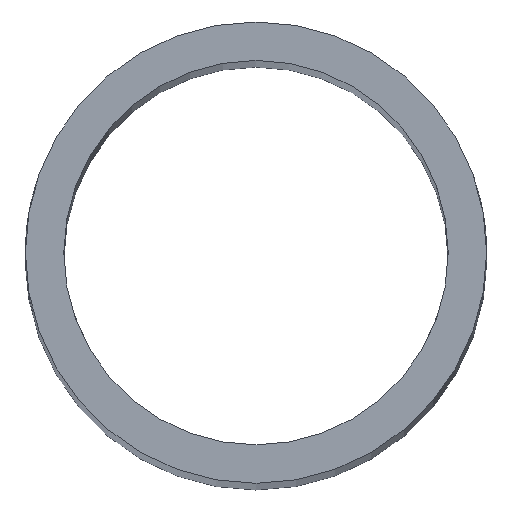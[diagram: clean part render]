
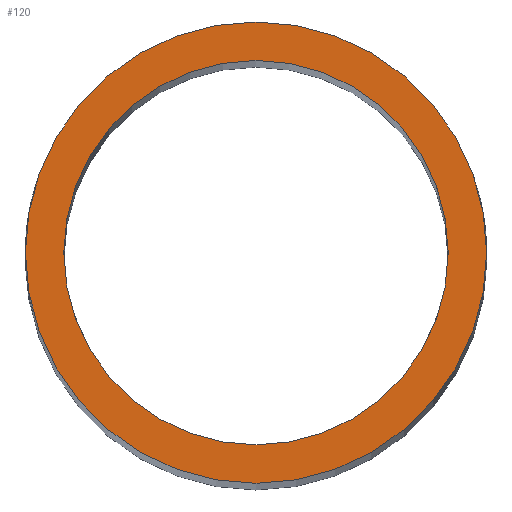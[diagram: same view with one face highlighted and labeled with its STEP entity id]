
A CAD part, top view. The second image highlights one B-rep face of the part: STEP entity #120.
In plain terms, the highlighted planar face has unit normal (0, 0, 1).
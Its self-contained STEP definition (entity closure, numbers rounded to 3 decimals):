
#3 = VERTEX_POINT ( 'NONE', #475 ) ;
#10 = EDGE_LOOP ( 'NONE', ( #168, #472 ) ) ;
#28 = CARTESIAN_POINT ( 'NONE',  ( 0., 0., 100. ) ) ;
#45 = CARTESIAN_POINT ( 'NONE',  ( 0., 0., 100. ) ) ;
#56 = DIRECTION ( 'NONE',  ( 1., 0., 0. ) ) ;
#65 = AXIS2_PLACEMENT_3D ( 'NONE', #411, #545, #326 ) ;
#70 = DIRECTION ( 'NONE',  ( 0., 0., 1. ) ) ;
#119 = FACE_OUTER_BOUND ( 'NONE', #253, .T. ) ;
#120 = ADVANCED_FACE ( 'NONE', ( #119, #491 ), #300, .T. ) ;
#142 = CARTESIAN_POINT ( 'NONE',  ( 6., 0., 100. ) ) ;
#168 = ORIENTED_EDGE ( 'NONE', *, *, #405, .F. ) ;
#222 = EDGE_CURVE ( 'NONE', #576, #3, #581, .T. ) ;
#224 = DIRECTION ( 'NONE',  ( 1., 0., 0. ) ) ;
#232 = VERTEX_POINT ( 'NONE', #234 ) ;
#234 = CARTESIAN_POINT ( 'NONE',  ( 5., 0., 100. ) ) ;
#246 = AXIS2_PLACEMENT_3D ( 'NONE', #45, #549, #224 ) ;
#253 = EDGE_LOOP ( 'NONE', ( #517, #344 ) ) ;
#279 = AXIS2_PLACEMENT_3D ( 'NONE', #513, #562, #56 ) ;
#300 = PLANE ( 'NONE',  #569 ) ;
#323 = DIRECTION ( 'NONE',  ( 1., 0., 0. ) ) ;
#326 = DIRECTION ( 'NONE',  ( 1., 0., 0. ) ) ;
#344 = ORIENTED_EDGE ( 'NONE', *, *, #222, .T. ) ;
#370 = CIRCLE ( 'NONE', #246, 5. ) ;
#377 = CIRCLE ( 'NONE', #603, 6. ) ;
#391 = VERTEX_POINT ( 'NONE', #602 ) ;
#405 = EDGE_CURVE ( 'NONE', #391, #232, #370, .T. ) ;
#411 = CARTESIAN_POINT ( 'NONE',  ( 0., 0., 100. ) ) ;
#435 = EDGE_CURVE ( 'NONE', #3, #576, #377, .T. ) ;
#442 = DIRECTION ( 'NONE',  ( 1., 0., 0. ) ) ;
#472 = ORIENTED_EDGE ( 'NONE', *, *, #594, .F. ) ;
#475 = CARTESIAN_POINT ( 'NONE',  ( -6., 0., 100. ) ) ;
#486 = CARTESIAN_POINT ( 'NONE',  ( 0., 0., 100. ) ) ;
#491 = FACE_BOUND ( 'NONE', #10, .T. ) ;
#513 = CARTESIAN_POINT ( 'NONE',  ( 0., 0., 100. ) ) ;
#517 = ORIENTED_EDGE ( 'NONE', *, *, #435, .T. ) ;
#541 = CIRCLE ( 'NONE', #279, 5. ) ;
#542 = DIRECTION ( 'NONE',  ( 0., 0., 1. ) ) ;
#545 = DIRECTION ( 'NONE',  ( 0., 0., 1. ) ) ;
#549 = DIRECTION ( 'NONE',  ( 0., 0., 1. ) ) ;
#562 = DIRECTION ( 'NONE',  ( 0., 0., 1. ) ) ;
#569 = AXIS2_PLACEMENT_3D ( 'NONE', #486, #70, #442 ) ;
#576 = VERTEX_POINT ( 'NONE', #142 ) ;
#581 = CIRCLE ( 'NONE', #65, 6. ) ;
#594 = EDGE_CURVE ( 'NONE', #232, #391, #541, .T. ) ;
#602 = CARTESIAN_POINT ( 'NONE',  ( -5., 0., 100. ) ) ;
#603 = AXIS2_PLACEMENT_3D ( 'NONE', #28, #542, #323 ) ;
